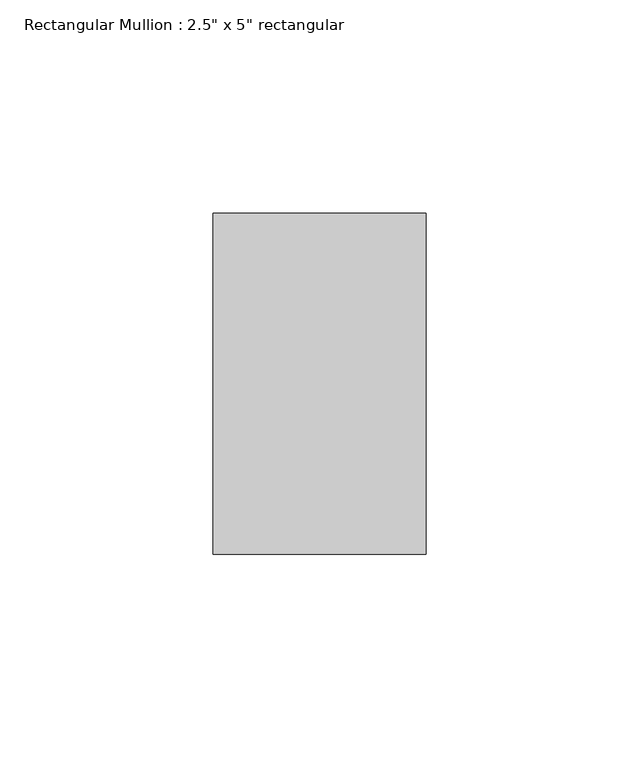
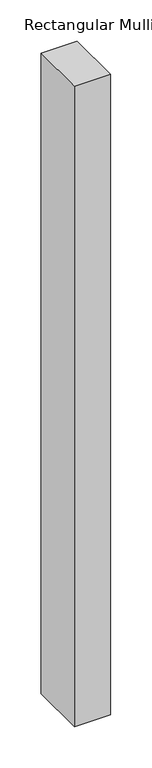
"""IFC4 building model written with IfcOpenShell, lengths in millimetres: member geometry."""

from ifc_helpers import new_model, si_unit, frame, origin, place, context, project, spatial, polyline, outline, extrude, source, transform, mapped, element, save


def member_9a189947(model_context):
    return source(origin(), model_context, "Body", "SweptSolid", [
        extrude(outline(polyline([(25.0, 40.0), (25.0, -40.0), (-25.0, -40.0), (-25.0, 40.0), (25.0, 40.0)])), frame((0.0, 0.0, -941.9999999), z_axis=(0.0, 0.0, 1.0), x_axis=(1.0, 0.0, 0.0)), (0.0, 0.0, 1.0), 941.9999999),
    ])


if __name__ == "__main__":
    model = new_model("IFC4")
    model_context = context("Model", 3, world=origin())
    ifc_project = project(units=[si_unit("LENGTHUNIT", "METRE", prefix="MILLI")], contexts=[model_context])
    site = spatial("IfcSite", under=ifc_project)
    building = spatial("IfcBuilding", under=site)
    placement = place(None, origin())
    member_shape = member_9a189947(model_context)
    element("IfcMember", 1, ObjectType="Rectangular Mullion : 2.5\" x 5\" rectangular", at=placement, inside=building, context=model_context, shape_type="MappedRepresentation", body=[
        mapped(member_shape, transform((0.0, 0.0, 0.0), x_axis=(1.0, 0.0, 0.0), y_axis=(0.0, 1.0, 0.0), z_axis=(0.0, 0.0, 1.0))),
    ])
    save(model, "model.ifc")
